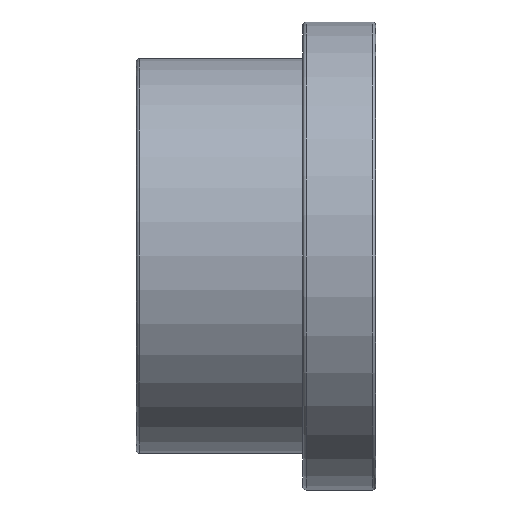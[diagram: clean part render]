
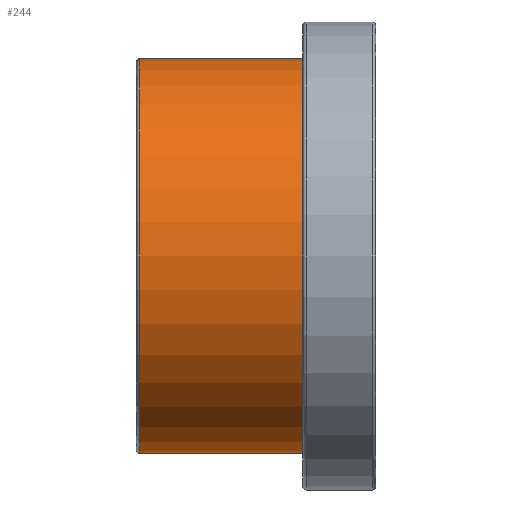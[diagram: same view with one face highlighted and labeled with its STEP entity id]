
A CAD part, front view. The second image highlights one B-rep face of the part: STEP entity #244.
In plain terms, the highlighted cylindrical face has radius 38 mm (diameter 76 mm), a full revolution.
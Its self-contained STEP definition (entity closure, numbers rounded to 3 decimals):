
#20=CYLINDRICAL_SURFACE('',#288,38.);
#46=FACE_BOUND('',#108,.T.);
#67=FACE_OUTER_BOUND('',#107,.T.);
#107=EDGE_LOOP('',(#212));
#108=EDGE_LOOP('',(#213));
#130=CIRCLE('',#285,38.);
#131=CIRCLE('',#287,38.);
#151=VERTEX_POINT('',#433);
#152=VERTEX_POINT('',#436);
#172=EDGE_CURVE('',#151,#151,#130,.T.);
#173=EDGE_CURVE('',#152,#152,#131,.T.);
#212=ORIENTED_EDGE('',*,*,#172,.T.);
#213=ORIENTED_EDGE('',*,*,#173,.F.);
#244=ADVANCED_FACE('',(#67,#46),#20,.T.);
#285=AXIS2_PLACEMENT_3D('',#434,#366,#367);
#287=AXIS2_PLACEMENT_3D('',#437,#370,#371);
#288=AXIS2_PLACEMENT_3D('',#438,#372,#373);
#366=DIRECTION('center_axis',(-1.,0.,0.));
#367=DIRECTION('ref_axis',(0.,0.,1.));
#370=DIRECTION('center_axis',(-1.,0.,0.));
#371=DIRECTION('ref_axis',(0.,1.,0.));
#372=DIRECTION('center_axis',(-1.,0.,0.));
#373=DIRECTION('ref_axis',(0.,-1.,0.));
#433=CARTESIAN_POINT('',(32.,-38.,0.));
#434=CARTESIAN_POINT('Origin',(32.,0.,0.));
#436=CARTESIAN_POINT('',(0.63,-38.,0.));
#437=CARTESIAN_POINT('Origin',(0.63,0.,0.));
#438=CARTESIAN_POINT('Origin',(16.,0.,0.));
